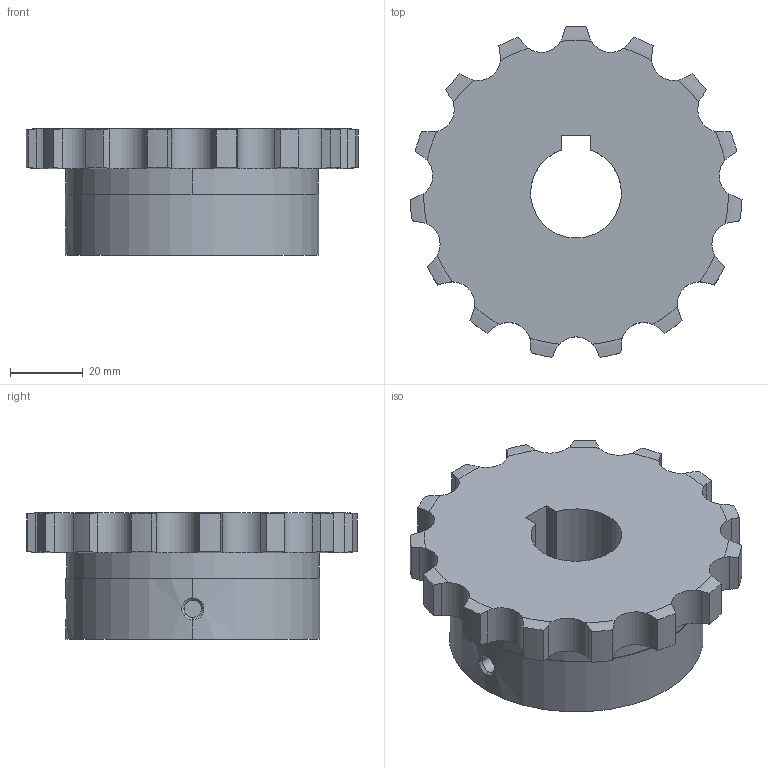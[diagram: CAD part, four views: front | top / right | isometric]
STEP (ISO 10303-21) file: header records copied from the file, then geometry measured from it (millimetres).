
FILE_DESCRIPTION((''),'2;1');
FILE_NAME('510-401-2515_PRT','2021-02-13T',('Brieden'),('Brieden'),'PRO/ENGINEER BY PARAMETRIC TECHNOLOGY CORPORATION, 2010160','PRO/ENGINEER BY PARAMETRIC TECHNOLOGY CORPORATION, 2010160','');
FILE_SCHEMA(('AUTOMOTIVE_DESIGN { 1 0 10303 214 1 1 1 1 }'));
Length unit declared in the file: millimetre
Products named in the file (1): 510-401-2515_PRT
Bounding box: 91.56 x 91.14 x 35 mm (x, y, z)
Volume: 136551 mm3; surface area: 23149.7 mm2
Topology: 1 solids, 1 shells, 114 faces, 321 edges, 212 vertices
Faces by surface type: cylinder 69, torus 30, plane 9, bspline 6
Entity records: 5504 total; most frequent: CARTESIAN_POINT 1698, ORIENTED_EDGE 642, DIRECTION 509, PRESENTATION_STYLE_ASSIGNMENT 322, STYLED_ITEM 322, CURVE_STYLE 321, EDGE_CURVE 321, AXIS2_PLACEMENT_3D 212
